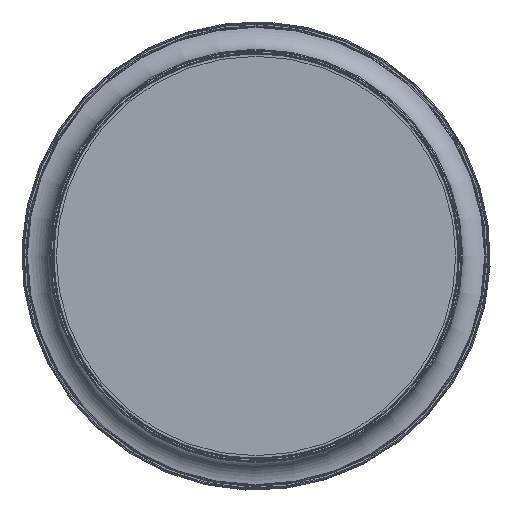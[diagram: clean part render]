
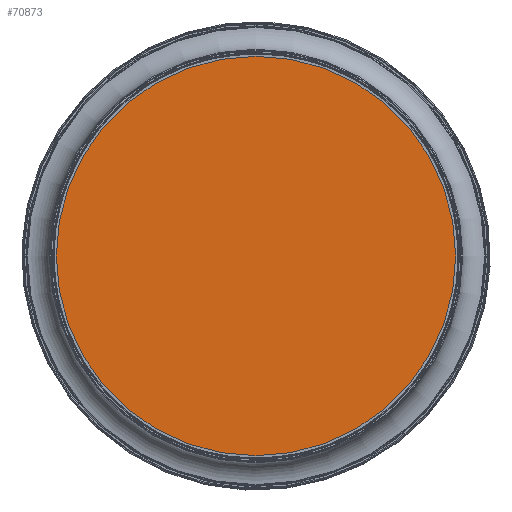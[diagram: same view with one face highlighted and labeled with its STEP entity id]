
A CAD part, front view. The second image highlights one B-rep face of the part: STEP entity #70873.
In plain terms, the highlighted planar face has unit normal (0, -1, 0).
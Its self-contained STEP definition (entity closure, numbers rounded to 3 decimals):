
#6221=PLANE('',#76508);
#9775=CIRCLE('',#76507,174.);
#11857=FACE_OUTER_BOUND('',#15816,.T.);
#15816=EDGE_LOOP('',(#51453));
#35481=VERTEX_POINT('',#103602);
#41819=EDGE_CURVE('',#35481,#35481,#9775,.T.);
#51453=ORIENTED_EDGE('',*,*,#41819,.T.);
#70873=ADVANCED_FACE('',(#11857),#6221,.T.);
#76507=AXIS2_PLACEMENT_3D('',#103604,#83035,#83036);
#76508=AXIS2_PLACEMENT_3D('',#103605,#83037,#83038);
#83035=DIRECTION('center_axis',(0.,-1.,0.));
#83036=DIRECTION('ref_axis',(1.,0.,0.));
#83037=DIRECTION('center_axis',(0.,-1.,0.));
#83038=DIRECTION('ref_axis',(0.,0.,-1.));
#103602=CARTESIAN_POINT('',(-174.,0.8,0.));
#103604=CARTESIAN_POINT('Origin',(0.,0.8,0.));
#103605=CARTESIAN_POINT('Origin',(0.,0.8,0.));
